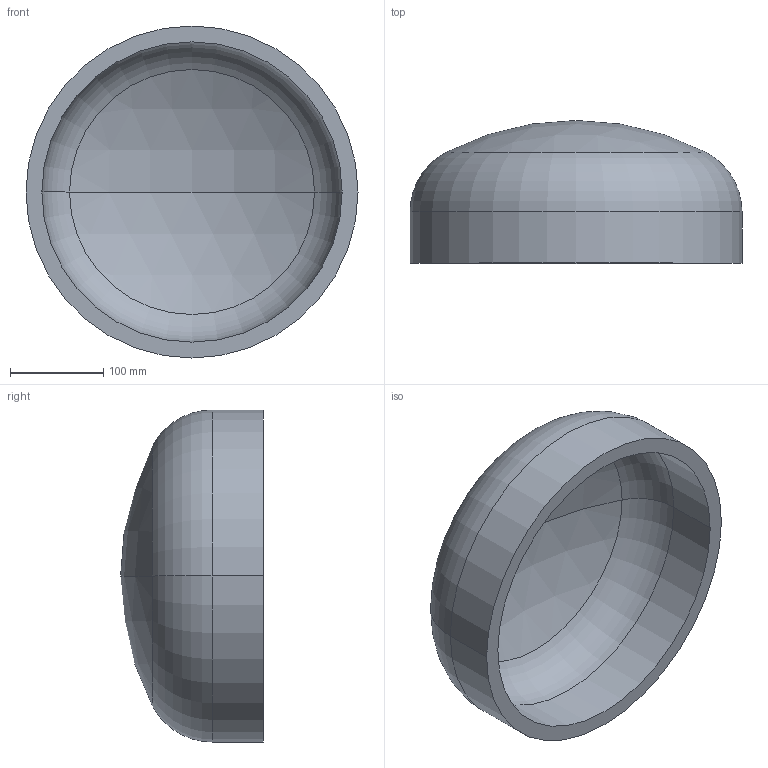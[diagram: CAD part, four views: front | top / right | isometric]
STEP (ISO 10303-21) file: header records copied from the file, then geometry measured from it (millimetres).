
FILE_DESCRIPTION (( 'STEP AP203' ), '1' );
FILE_NAME ('DIN 28013 Korbbogenform_-_Boden DIN 28013 - 355,6 x 55 - I - s=17.step', '2016-07-01T07:46:44', ( '' ), ( '' ), 'SwSTEP 2.0', 'SolidWorks 2013', '' );
FILE_SCHEMA (( 'CONFIG_CONTROL_DESIGN' ));
Length unit declared in the file: millimetre
Products named in the file (1): DIN 28013 Korbbogenform_-_Boden DIN 28013 - 355,6 x 55 - I - s=17
Bounding box: 355.6 x 152.91 x 355.6 mm (x, y, z)
Volume: 3195532.8 mm3; surface area: 394633.9 mm2
Topology: 1 solids, 1 shells, 13 faces, 24 edges, 14 vertices
Faces by surface type: torus 4, cylinder 4, sphere 4, plane 1
Entity records: 407 total; most frequent: DIRECTION 72, CARTESIAN_POINT 52, ORIENTED_EDGE 48, AXIS2_PLACEMENT_3D 34, EDGE_CURVE 24, CIRCLE 20, EDGE_LOOP 14, VERTEX_POINT 14
